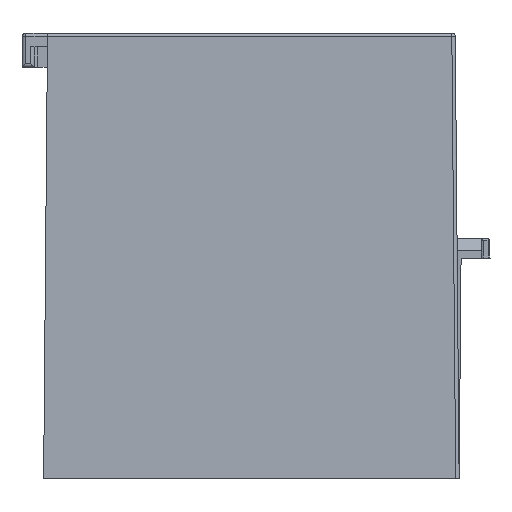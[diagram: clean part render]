
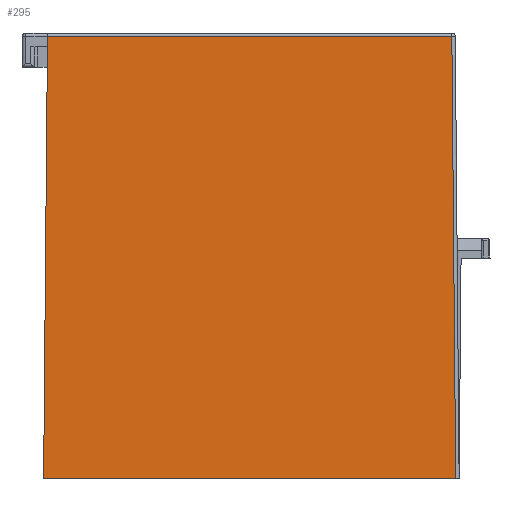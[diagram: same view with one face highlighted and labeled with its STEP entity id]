
A CAD part, left-side view. The second image highlights one B-rep face of the part: STEP entity #295.
In plain terms, the highlighted planar face has unit normal (-1, 0, 0.009).
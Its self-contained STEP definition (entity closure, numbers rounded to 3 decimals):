
#295=ADVANCED_FACE('',(#624),#507,.T.);
#507=PLANE('',#4030);
#624=FACE_OUTER_BOUND('',#842,.T.);
#842=EDGE_LOOP('',(#2028,#2029,#2030,#2031));
#1171=LINE('',#5802,#1584);
#1172=LINE('',#5805,#1585);
#1173=LINE('',#5807,#1586);
#1174=LINE('',#5809,#1587);
#1584=VECTOR('',#4561,1.);
#1585=VECTOR('',#4562,1.);
#1586=VECTOR('',#4563,1.);
#1587=VECTOR('',#4564,1.);
#2028=ORIENTED_EDGE('',*,*,#3513,.T.);
#2029=ORIENTED_EDGE('',*,*,#3514,.T.);
#2030=ORIENTED_EDGE('',*,*,#3515,.T.);
#2031=ORIENTED_EDGE('',*,*,#3516,.F.);
#3143=VERTEX_POINT('',#5803);
#3144=VERTEX_POINT('',#5804);
#3145=VERTEX_POINT('',#5806);
#3146=VERTEX_POINT('',#5808);
#3513=EDGE_CURVE('',#3143,#3144,#1171,.T.);
#3514=EDGE_CURVE('',#3144,#3145,#1172,.T.);
#3515=EDGE_CURVE('',#3145,#3146,#1173,.T.);
#3516=EDGE_CURVE('',#3143,#3146,#1174,.T.);
#4030=AXIS2_PLACEMENT_3D('',#5810,#4565,#4566);
#4561=DIRECTION('',(0.,-1.,0.));
#4562=DIRECTION('',(0.009,0.009,1.));
#4563=DIRECTION('',(0.,1.,0.));
#4564=DIRECTION('',(0.009,-0.009,1.));
#4565=DIRECTION('',(-1.,0.,0.009));
#4566=DIRECTION('',(0.009,0.,1.));
#5802=CARTESIAN_POINT('',(-35.5,0.,-63.));
#5803=CARTESIAN_POINT('',(-35.5,60.567,-63.));
#5804=CARTESIAN_POINT('',(-35.5,0.5,-63.));
#5805=CARTESIAN_POINT('',(-35.5,0.5,-63.004));
#5806=CARTESIAN_POINT('',(-34.937,1.063,1.504));
#5807=CARTESIAN_POINT('',(-34.937,0.,1.504));
#5808=CARTESIAN_POINT('',(-34.937,60.004,1.504));
#5809=CARTESIAN_POINT('',(-34.929,59.996,2.437));
#5810=CARTESIAN_POINT('',(-35.5,0.,-63.));
